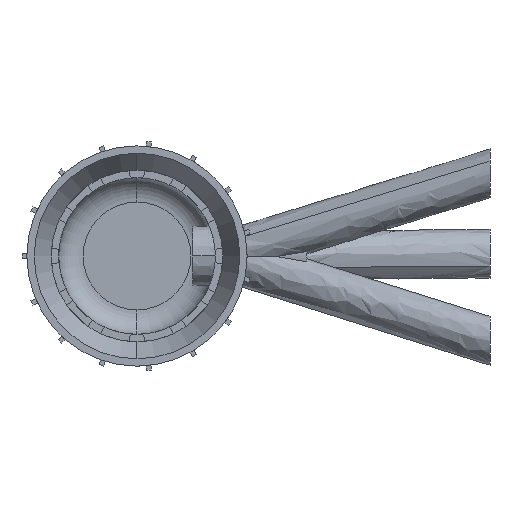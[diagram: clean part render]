
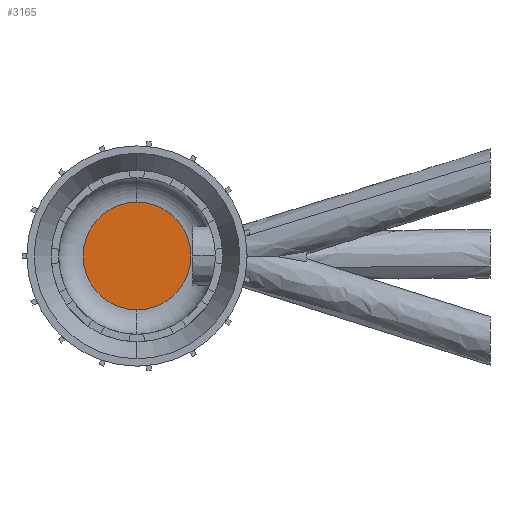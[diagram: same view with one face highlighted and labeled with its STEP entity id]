
A CAD part, left-side view. The second image highlights one B-rep face of the part: STEP entity #3165.
In plain terms, the highlighted planar face has unit normal (-1, 0, 0).
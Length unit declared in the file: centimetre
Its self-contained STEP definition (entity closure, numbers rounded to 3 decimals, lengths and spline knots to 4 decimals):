
#842 = VERTEX_POINT ( 'NONE', #6096 ) ;
#874 = ORIENTED_EDGE ( 'NONE', *, *, #2840, .T. ) ;
#1275 = ORIENTED_EDGE ( 'NONE', *, *, #4455, .T. ) ;
#1596 = FACE_OUTER_BOUND ( 'NONE', #7170, .T. ) ;
#1633 = DIRECTION ( 'NONE',  ( 0., 0., 1. ) ) ;
#2439 = DIRECTION ( 'NONE',  ( -1., 0., 0. ) ) ;
#2679 = DIRECTION ( 'NONE',  ( 0., 0., 1. ) ) ;
#2749 = CARTESIAN_POINT ( 'NONE',  ( 18.247, 0., 0. ) ) ;
#2840 = EDGE_CURVE ( 'NONE', #7019, #842, #7561, .T. ) ;
#3165 = ADVANCED_FACE ( 'NONE', ( #1596 ), #9260, .T. ) ;
#4137 = CARTESIAN_POINT ( 'NONE',  ( 18.247, 0., 0. ) ) ;
#4455 = EDGE_CURVE ( 'NONE', #842, #7019, #6043, .T. ) ;
#4564 = AXIS2_PLACEMENT_3D ( 'NONE', #5990, #2439, #1633 ) ;
#4869 = DIRECTION ( 'NONE',  ( -1., 0., 0. ) ) ;
#5990 = CARTESIAN_POINT ( 'NONE',  ( 18.247, 0., 0. ) ) ;
#6043 = CIRCLE ( 'NONE', #8304, 2.2 ) ;
#6096 = CARTESIAN_POINT ( 'NONE',  ( 18.247, 0., -2.2 ) ) ;
#6314 = DIRECTION ( 'NONE',  ( -1., 0., 0. ) ) ;
#7019 = VERTEX_POINT ( 'NONE', #7772 ) ;
#7170 = EDGE_LOOP ( 'NONE', ( #874, #1275 ) ) ;
#7561 = CIRCLE ( 'NONE', #4564, 2.2 ) ;
#7772 = CARTESIAN_POINT ( 'NONE',  ( 18.247, 0., 2.2 ) ) ;
#8176 = AXIS2_PLACEMENT_3D ( 'NONE', #4137, #4869, #9222 ) ;
#8304 = AXIS2_PLACEMENT_3D ( 'NONE', #2749, #6314, #2679 ) ;
#9222 = DIRECTION ( 'NONE',  ( 0., 0., 1. ) ) ;
#9260 = PLANE ( 'NONE',  #8176 ) ;
